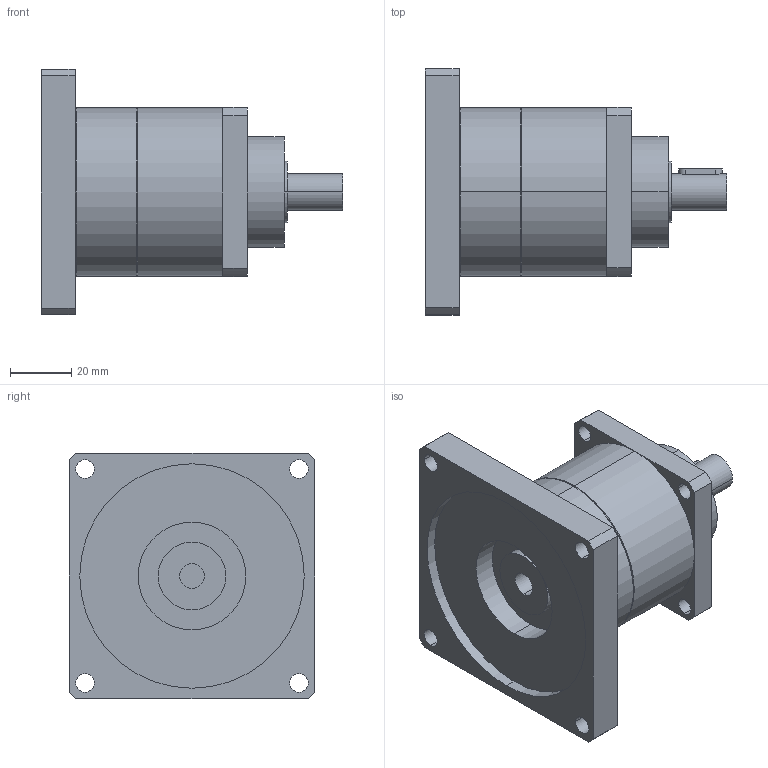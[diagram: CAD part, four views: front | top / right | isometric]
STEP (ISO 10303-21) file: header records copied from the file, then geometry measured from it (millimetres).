
FILE_DESCRIPTION(('CoCreate Modeling STEP Export'),'2;1');
FILE_NAME('GPT55_ig-3-4-5-7-10_12_B5A_8_P06.stp','2014-08-25T14:34:07',(''),(''),'CoCreate Modeling STEP processor for AP214 (Solid Model)','CoCreate Modeling 16.00C 25-Feb-2009 (C) Parametric Technology GmbH','');
FILE_SCHEMA(('AUTOMOTIVE_DESIGN { 1 0 10303 214 1 1 1 1 }'));
Length unit declared in the file: millimetre
Products named in the file (2): GPT55_ig-3-4-5-7-10_12_B5A_8_P06
Assembly tree (1 placements, depth 2):
  GPT55_ig-3-4-5-7-10_12_B5A_8_P06
    GPT55_ig-3-4-5-7-10_12_B5A_8_P06
Bounding box: 98 x 80 x 80 mm (x, y, z)
Volume: 199029 mm3; surface area: 33319.1 mm2
Topology: 1 solids, 1 shells, 77 faces, 205 edges, 140 vertices
Faces by surface type: cylinder 46, plane 27, cone 4
Entity records: 2520 total; most frequent: CARTESIAN_POINT 711, ORIENTED_EDGE 410, DIRECTION 318, EDGE_CURVE 205, VERTEX_POINT 140, AXIS2_PLACEMENT_3D 117, EDGE_LOOP 103, VECTOR 84
